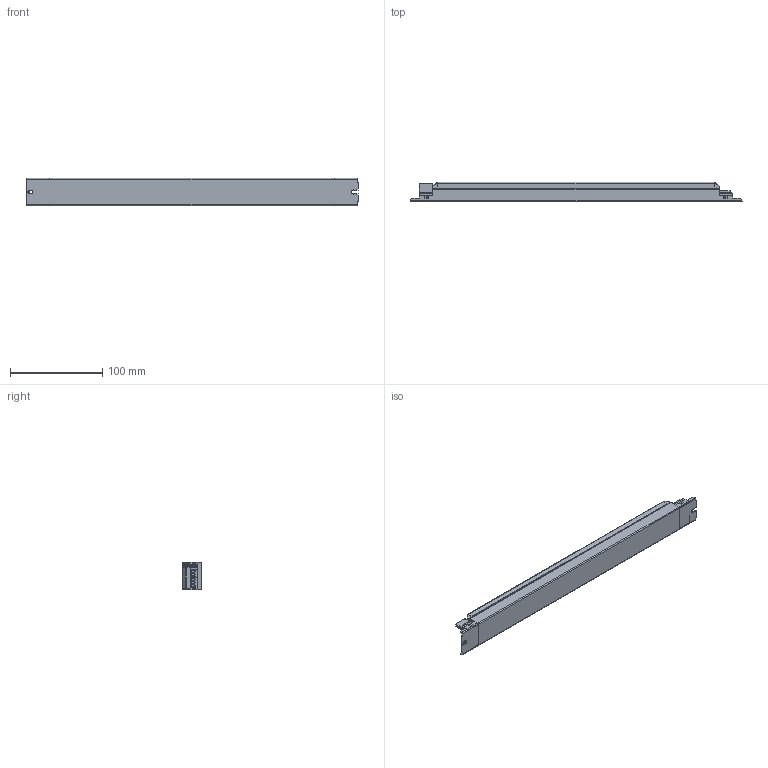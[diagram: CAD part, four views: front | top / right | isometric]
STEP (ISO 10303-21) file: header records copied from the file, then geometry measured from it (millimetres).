
FILE_DESCRIPTION (( 'STEP AP214' ), '1' );
FILE_NAME ('4196716swm000.step', '2020-02-28T08:36:16', ( 'OSRAM' ), ( 'OSRAM' ), 'SwSTEP 2.0', 'SolidWorks 2017', '' );
FILE_SCHEMA (( 'AUTOMOTIVE_DESIGN' ));
Length unit declared in the file: millimetre
Products named in the file (1): 4196716swm000
Bounding box: 359 x 21 x 30 mm (x, y, z)
Volume: 196684.8 mm3; surface area: 41566 mm2
Topology: 1 solids, 1 shells, 616 faces, 1709 edges, 1106 vertices
Faces by surface type: plane 375, cylinder 205, cone 26, bspline 6, sphere 4
Entity records: 26817 total; most frequent: CARTESIAN_POINT 4434, ORIENTED_EDGE 3410, DIRECTION 3085, EDGE_CURVE 1705, VECTOR 1187, LINE 1187, VERTEX_POINT 1106, AXIS2_PLACEMENT_3D 949
